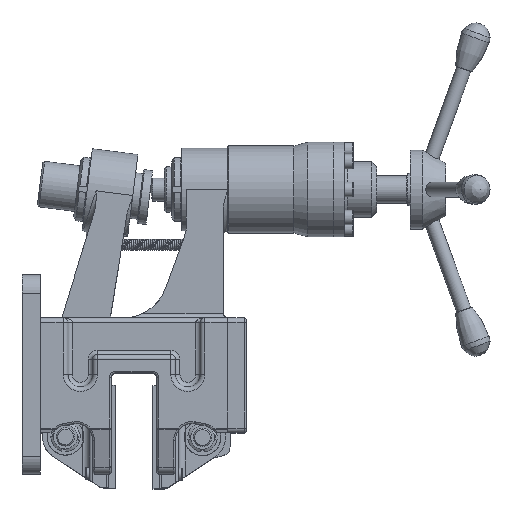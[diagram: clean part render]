
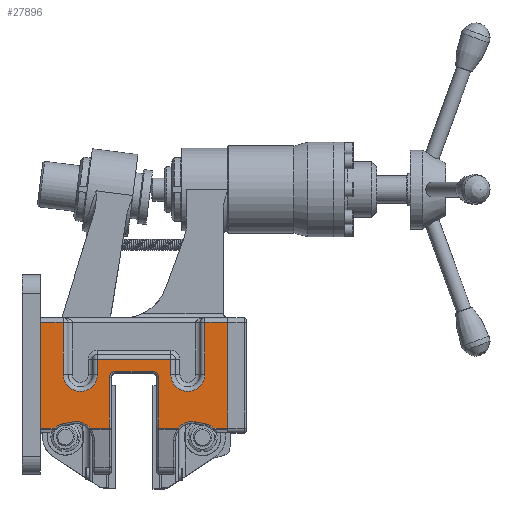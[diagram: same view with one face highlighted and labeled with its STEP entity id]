
A CAD part, top view. The second image highlights one B-rep face of the part: STEP entity #27896.
In plain terms, the highlighted planar face has unit normal (0, 0, 1).
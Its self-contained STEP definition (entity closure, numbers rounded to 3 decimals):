
#1198=PLANE('',#29966);
#2324=FACE_OUTER_BOUND('',#3888,.T.);
#3888=EDGE_LOOP('',(#19838,#19839,#19840,#19841,#19842,#19843,#19844,#19845,
#19846,#19847,#19848,#19849,#19850,#19851,#19852,#19853,#19854,#19855,#19856,
#19857,#19858,#19859,#19860,#19861,#19862,#19863));
#5813=LINE('',#43887,#7801);
#5814=LINE('',#43961,#7802);
#5816=LINE('',#43967,#7804);
#5817=LINE('',#43969,#7805);
#5818=LINE('',#43973,#7806);
#5819=LINE('',#43977,#7807);
#5820=LINE('',#43979,#7808);
#5821=LINE('',#43983,#7809);
#5822=LINE('',#43987,#7810);
#5823=LINE('',#43989,#7811);
#5824=LINE('',#43991,#7812);
#5825=LINE('',#43993,#7813);
#5826=LINE('',#43997,#7814);
#5827=LINE('',#43999,#7815);
#5828=LINE('',#44001,#7816);
#5829=LINE('',#44005,#7817);
#5830=LINE('',#44007,#7818);
#5831=LINE('',#44008,#7819);
#7801=VECTOR('',#34739,10.);
#7802=VECTOR('',#34756,10.);
#7804=VECTOR('',#34762,10.);
#7805=VECTOR('',#34763,10.);
#7806=VECTOR('',#34766,10.);
#7807=VECTOR('',#34769,10.);
#7808=VECTOR('',#34770,10.);
#7809=VECTOR('',#34773,10.);
#7810=VECTOR('',#34776,10.);
#7811=VECTOR('',#34777,10.);
#7812=VECTOR('',#34778,5.);
#7813=VECTOR('',#34779,10.);
#7814=VECTOR('',#34782,10.);
#7815=VECTOR('',#34783,10.);
#7816=VECTOR('',#34784,10.);
#7817=VECTOR('',#34787,10.);
#7818=VECTOR('',#34788,5.);
#7819=VECTOR('',#34789,10.);
#9606=CIRCLE('',#29954,20.);
#9610=CIRCLE('',#29960,18.);
#9613=CIRCLE('',#29967,7.);
#9614=CIRCLE('',#29968,7.);
#9615=CIRCLE('',#29969,20.);
#9616=CIRCLE('',#29970,18.);
#9617=CIRCLE('',#29971,18.5);
#9618=CIRCLE('',#29972,18.5);
#11523=VERTEX_POINT('',#43865);
#11525=VERTEX_POINT('',#43877);
#11527=VERTEX_POINT('',#43883);
#11529=VERTEX_POINT('',#43889);
#11535=VERTEX_POINT('',#43960);
#11537=VERTEX_POINT('',#43966);
#11538=VERTEX_POINT('',#43968);
#11539=VERTEX_POINT('',#43970);
#11540=VERTEX_POINT('',#43972);
#11541=VERTEX_POINT('',#43974);
#11542=VERTEX_POINT('',#43976);
#11543=VERTEX_POINT('',#43978);
#11544=VERTEX_POINT('',#43980);
#11545=VERTEX_POINT('',#43982);
#11546=VERTEX_POINT('',#43984);
#11547=VERTEX_POINT('',#43986);
#11548=VERTEX_POINT('',#43988);
#11549=VERTEX_POINT('',#43990);
#11550=VERTEX_POINT('',#43992);
#11551=VERTEX_POINT('',#43994);
#11552=VERTEX_POINT('',#43996);
#11553=VERTEX_POINT('',#43998);
#11554=VERTEX_POINT('',#44000);
#11555=VERTEX_POINT('',#44002);
#11556=VERTEX_POINT('',#44004);
#11557=VERTEX_POINT('',#44006);
#14661=EDGE_CURVE('',#11523,#11525,#9606,.T.);
#14664=EDGE_CURVE('',#11525,#11527,#5813,.T.);
#14667=EDGE_CURVE('',#11527,#11529,#9610,.T.);
#14674=EDGE_CURVE('',#11529,#11535,#5814,.T.);
#14677=EDGE_CURVE('',#11537,#11523,#5816,.T.);
#14678=EDGE_CURVE('',#11538,#11537,#5817,.T.);
#14679=EDGE_CURVE('',#11539,#11538,#9613,.T.);
#14680=EDGE_CURVE('',#11540,#11539,#5818,.T.);
#14681=EDGE_CURVE('',#11541,#11540,#9614,.T.);
#14682=EDGE_CURVE('',#11542,#11541,#5819,.T.);
#14683=EDGE_CURVE('',#11543,#11542,#5820,.T.);
#14684=EDGE_CURVE('',#11544,#11543,#9615,.T.);
#14685=EDGE_CURVE('',#11545,#11544,#5821,.T.);
#14686=EDGE_CURVE('',#11546,#11545,#9616,.T.);
#14687=EDGE_CURVE('',#11547,#11546,#5822,.T.);
#14688=EDGE_CURVE('',#11548,#11547,#5823,.T.);
#14689=EDGE_CURVE('',#11549,#11548,#5824,.T.);
#14690=EDGE_CURVE('',#11550,#11549,#5825,.T.);
#14691=EDGE_CURVE('',#11551,#11550,#9617,.T.);
#14692=EDGE_CURVE('',#11552,#11551,#5826,.T.);
#14693=EDGE_CURVE('',#11553,#11552,#5827,.T.);
#14694=EDGE_CURVE('',#11554,#11553,#5828,.T.);
#14695=EDGE_CURVE('',#11555,#11554,#9618,.T.);
#14696=EDGE_CURVE('',#11556,#11555,#5829,.T.);
#14697=EDGE_CURVE('',#11557,#11556,#5830,.T.);
#14698=EDGE_CURVE('',#11535,#11557,#5831,.T.);
#19838=ORIENTED_EDGE('',*,*,#14667,.F.);
#19839=ORIENTED_EDGE('',*,*,#14664,.F.);
#19840=ORIENTED_EDGE('',*,*,#14661,.F.);
#19841=ORIENTED_EDGE('',*,*,#14677,.F.);
#19842=ORIENTED_EDGE('',*,*,#14678,.F.);
#19843=ORIENTED_EDGE('',*,*,#14679,.F.);
#19844=ORIENTED_EDGE('',*,*,#14680,.F.);
#19845=ORIENTED_EDGE('',*,*,#14681,.F.);
#19846=ORIENTED_EDGE('',*,*,#14682,.F.);
#19847=ORIENTED_EDGE('',*,*,#14683,.F.);
#19848=ORIENTED_EDGE('',*,*,#14684,.F.);
#19849=ORIENTED_EDGE('',*,*,#14685,.F.);
#19850=ORIENTED_EDGE('',*,*,#14686,.F.);
#19851=ORIENTED_EDGE('',*,*,#14687,.F.);
#19852=ORIENTED_EDGE('',*,*,#14688,.F.);
#19853=ORIENTED_EDGE('',*,*,#14689,.F.);
#19854=ORIENTED_EDGE('',*,*,#14690,.F.);
#19855=ORIENTED_EDGE('',*,*,#14691,.F.);
#19856=ORIENTED_EDGE('',*,*,#14692,.F.);
#19857=ORIENTED_EDGE('',*,*,#14693,.F.);
#19858=ORIENTED_EDGE('',*,*,#14694,.F.);
#19859=ORIENTED_EDGE('',*,*,#14695,.F.);
#19860=ORIENTED_EDGE('',*,*,#14696,.F.);
#19861=ORIENTED_EDGE('',*,*,#14697,.F.);
#19862=ORIENTED_EDGE('',*,*,#14698,.F.);
#19863=ORIENTED_EDGE('',*,*,#14674,.F.);
#27896=ADVANCED_FACE('',(#2324),#1198,.T.);
#29954=AXIS2_PLACEMENT_3D('',#43881,#34732,#34733);
#29960=AXIS2_PLACEMENT_3D('',#43893,#34746,#34747);
#29966=AXIS2_PLACEMENT_3D('',#43965,#34760,#34761);
#29967=AXIS2_PLACEMENT_3D('',#43971,#34764,#34765);
#29968=AXIS2_PLACEMENT_3D('',#43975,#34767,#34768);
#29969=AXIS2_PLACEMENT_3D('',#43981,#34771,#34772);
#29970=AXIS2_PLACEMENT_3D('',#43985,#34774,#34775);
#29971=AXIS2_PLACEMENT_3D('',#43995,#34780,#34781);
#29972=AXIS2_PLACEMENT_3D('',#44003,#34785,#34786);
#34732=DIRECTION('center_axis',(0.,0.,
1.));
#34733=DIRECTION('ref_axis',(0.29,0.957,0.));
#34739=DIRECTION('',(-0.985,-0.174,0.));
#34746=DIRECTION('center_axis',(0.,0.,
1.));
#34747=DIRECTION('ref_axis',(-0.388,0.922,0.));
#34756=DIRECTION('',(-1.,0.,0.));
#34760=DIRECTION('center_axis',(0.,0.,
1.));
#34761=DIRECTION('ref_axis',(1.,0.,0.));
#34762=DIRECTION('',(-1.,0.,0.));
#34763=DIRECTION('',(0.,-1.,0.));
#34764=DIRECTION('center_axis',(0.,0.,
1.));
#34765=DIRECTION('ref_axis',(-0.707,0.707,0.));
#34766=DIRECTION('',(-1.,0.,0.));
#34767=DIRECTION('center_axis',(0.,0.,
1.));
#34768=DIRECTION('ref_axis',(0.707,0.707,0.));
#34769=DIRECTION('',(0.,1.,0.));
#34770=DIRECTION('',(-1.,0.,0.));
#34771=DIRECTION('center_axis',(0.,0.,
1.));
#34772=DIRECTION('ref_axis',(-0.29,0.957,0.));
#34773=DIRECTION('',(-0.985,0.174,0.));
#34774=DIRECTION('center_axis',(0.,0.,
1.));
#34775=DIRECTION('ref_axis',(0.388,0.922,0.));
#34776=DIRECTION('',(-1.,0.,0.));
#34777=DIRECTION('',(0.,-1.,0.));
#34778=DIRECTION('',(1.,0.,0.));
#34779=DIRECTION('',(0.,1.,0.));
#34780=DIRECTION('center_axis',(0.,0.,
1.));
#34781=DIRECTION('ref_axis',(0.,-1.,0.));
#34782=DIRECTION('',(0.,-1.,0.));
#34783=DIRECTION('',(1.,0.,0.));
#34784=DIRECTION('',(0.,1.,0.));
#34785=DIRECTION('center_axis',(0.,0.,
1.));
#34786=DIRECTION('ref_axis',(0.,-1.,0.));
#34787=DIRECTION('',(0.,-1.,0.));
#34788=DIRECTION('',(1.,0.,0.));
#34789=DIRECTION('',(0.,1.,0.));
#43865=CARTESIAN_POINT('',(-47.801,50.,285.));
#43877=CARTESIAN_POINT('',(-66.478,56.695,285.));
#43881=CARTESIAN_POINT('Origin',(-63.,37.,285.));
#43883=CARTESIAN_POINT('',(-77.63,54.726,285.));
#43887=CARTESIAN_POINT('',(-36.958,61.909,285.));
#43889=CARTESIAN_POINT('',(-86.95,50.,285.));
#43893=CARTESIAN_POINT('Origin',(-74.5,37.,285.));
#43960=CARTESIAN_POINT('',(-102.,50.,285.));
#43961=CARTESIAN_POINT('',(-102.,50.,285.));
#43965=CARTESIAN_POINT('Origin',(0.,90.129,
285.));
#43966=CARTESIAN_POINT('',(-27.,50.,285.));
#43967=CARTESIAN_POINT('',(-102.,50.,285.));
#43968=CARTESIAN_POINT('',(-27.,105.,285.));
#43969=CARTESIAN_POINT('',(-27.,45.065,285.));
#43970=CARTESIAN_POINT('',(-20.,112.,285.));
#43971=CARTESIAN_POINT('Origin',(-20.,105.,285.));
#43972=CARTESIAN_POINT('',(20.,112.,285.));
#43973=CARTESIAN_POINT('',(-10.,112.,285.));
#43974=CARTESIAN_POINT('',(27.,105.,285.));
#43975=CARTESIAN_POINT('Origin',(20.,105.,285.));
#43976=CARTESIAN_POINT('',(27.,50.,285.));
#43977=CARTESIAN_POINT('',(27.,97.565,285.));
#43978=CARTESIAN_POINT('',(47.801,50.,285.));
#43979=CARTESIAN_POINT('',(-102.,50.,285.));
#43980=CARTESIAN_POINT('',(66.478,56.695,285.));
#43981=CARTESIAN_POINT('Origin',(63.,37.,285.));
#43982=CARTESIAN_POINT('',(77.63,54.726,285.));
#43983=CARTESIAN_POINT('',(31.381,62.893,285.));
#43984=CARTESIAN_POINT('',(86.95,50.,285.));
#43985=CARTESIAN_POINT('Origin',(74.5,37.,285.));
#43986=CARTESIAN_POINT('',(102.,50.,285.));
#43987=CARTESIAN_POINT('',(-102.,50.,285.));
#43988=CARTESIAN_POINT('',(102.,165.,285.));
#43989=CARTESIAN_POINT('',(102.,165.,285.));
#43990=CARTESIAN_POINT('',(77.,165.,285.));
#43991=CARTESIAN_POINT('',(0.,165.,285.));
#43992=CARTESIAN_POINT('',(77.,108.5,285.));
#43993=CARTESIAN_POINT('',(77.,127.565,285.));
#43994=CARTESIAN_POINT('',(40.,108.5,285.));
#43995=CARTESIAN_POINT('Origin',(58.5,108.5,285.));
#43996=CARTESIAN_POINT('',(40.,125.,285.));
#43997=CARTESIAN_POINT('',(40.,99.315,285.));
#43998=CARTESIAN_POINT('',(-40.,125.,285.));
#43999=CARTESIAN_POINT('',(20.,125.,285.));
#44000=CARTESIAN_POINT('',(-40.,108.5,285.));
#44001=CARTESIAN_POINT('',(-40.,107.565,285.));
#44002=CARTESIAN_POINT('',(-77.,108.5,285.));
#44003=CARTESIAN_POINT('Origin',(-58.5,108.5,285.));
#44004=CARTESIAN_POINT('',(-77.,165.,285.));
#44005=CARTESIAN_POINT('',(-77.,99.315,285.));
#44006=CARTESIAN_POINT('',(-102.,165.,285.));
#44007=CARTESIAN_POINT('',(102.,165.,285.));
#44008=CARTESIAN_POINT('',(-102.,98.526,285.));
